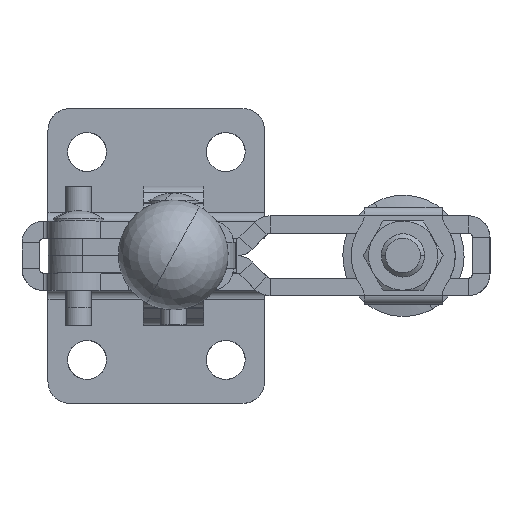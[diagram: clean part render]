
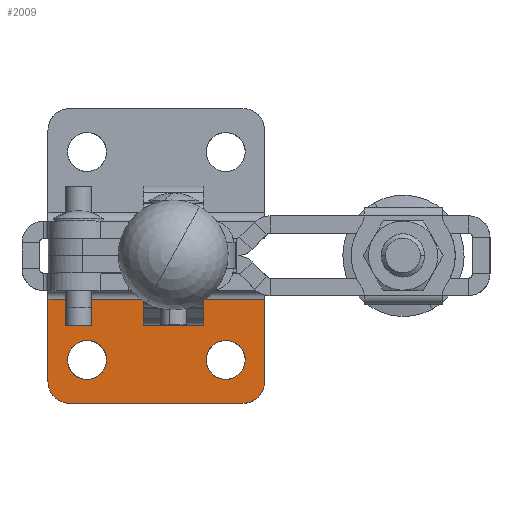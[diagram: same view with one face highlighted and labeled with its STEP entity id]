
A CAD part, top view. The second image highlights one B-rep face of the part: STEP entity #2009.
In plain terms, the highlighted planar face has unit normal (0, 0, 1).
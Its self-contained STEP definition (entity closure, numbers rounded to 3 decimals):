
#869=CARTESIAN_POINT('Axis2P3D Location',(0.,0.,-6.)) ;
#1683=CARTESIAN_POINT('Vertex',(3.75,-12.,-6.)) ;
#1689=CARTESIAN_POINT('Control Point',(8.25,-12.,-6.)) ;
#1690=CARTESIAN_POINT('Control Point',(8.25,-12.522,-6.)) ;
#1691=CARTESIAN_POINT('Control Point',(8.099,-13.044,-6.)) ;
#1692=CARTESIAN_POINT('Control Point',(7.796,-13.507,-6.)) ;
#1693=CARTESIAN_POINT('Control Point',(7.14,-14.052,-6.)) ;
#1694=CARTESIAN_POINT('Control Point',(6.334,-14.255,-6.)) ;
#1695=CARTESIAN_POINT('Control Point',(6.032,-14.28,-6.)) ;
#1696=CARTESIAN_POINT('Control Point',(5.132,-14.202,-6.)) ;
#1697=CARTESIAN_POINT('Control Point',(4.34,-13.696,-6.)) ;
#1698=CARTESIAN_POINT('Control Point',(3.946,-13.189,-6.)) ;
#1699=CARTESIAN_POINT('Control Point',(3.75,-12.594,-6.)) ;
#1700=CARTESIAN_POINT('Control Point',(3.75,-12.,-6.)) ;
#1701=CARTESIAN_POINT('Vertex',(8.25,-12.,-6.)) ;
#1747=CARTESIAN_POINT('Control Point',(3.75,-12.,-6.)) ;
#1748=CARTESIAN_POINT('Control Point',(3.75,-11.406,-6.)) ;
#1749=CARTESIAN_POINT('Control Point',(3.946,-10.811,-6.)) ;
#1750=CARTESIAN_POINT('Control Point',(4.34,-10.304,-6.)) ;
#1751=CARTESIAN_POINT('Control Point',(5.132,-9.798,-6.)) ;
#1752=CARTESIAN_POINT('Control Point',(6.032,-9.72,-6.)) ;
#1753=CARTESIAN_POINT('Control Point',(6.334,-9.745,-6.)) ;
#1754=CARTESIAN_POINT('Control Point',(7.14,-9.948,-6.)) ;
#1755=CARTESIAN_POINT('Control Point',(7.796,-10.493,-6.)) ;
#1756=CARTESIAN_POINT('Control Point',(8.099,-10.956,-6.)) ;
#1757=CARTESIAN_POINT('Control Point',(8.25,-11.478,-6.)) ;
#1758=CARTESIAN_POINT('Control Point',(8.25,-12.,-6.)) ;
#1794=CARTESIAN_POINT('Vertex',(-7.75,-12.,-6.)) ;
#1798=CARTESIAN_POINT('Control Point',(-12.25,-12.,-6.)) ;
#1799=CARTESIAN_POINT('Control Point',(-12.25,-11.406,-6.)) ;
#1800=CARTESIAN_POINT('Control Point',(-12.054,-10.811,-6.)) ;
#1801=CARTESIAN_POINT('Control Point',(-11.66,-10.304,-6.)) ;
#1802=CARTESIAN_POINT('Control Point',(-10.868,-9.798,-6.)) ;
#1803=CARTESIAN_POINT('Control Point',(-9.968,-9.72,-6.)) ;
#1804=CARTESIAN_POINT('Control Point',(-9.666,-9.745,-6.)) ;
#1805=CARTESIAN_POINT('Control Point',(-8.86,-9.948,-6.)) ;
#1806=CARTESIAN_POINT('Control Point',(-8.204,-10.493,-6.)) ;
#1807=CARTESIAN_POINT('Control Point',(-7.901,-10.956,-6.)) ;
#1808=CARTESIAN_POINT('Control Point',(-7.75,-11.478,-6.)) ;
#1809=CARTESIAN_POINT('Control Point',(-7.75,-12.,-6.)) ;
#1810=CARTESIAN_POINT('Vertex',(-12.25,-12.,-6.)) ;
#1826=CARTESIAN_POINT('Control Point',(-7.75,-12.,-6.)) ;
#1827=CARTESIAN_POINT('Control Point',(-7.75,-12.522,-6.)) ;
#1828=CARTESIAN_POINT('Control Point',(-7.901,-13.044,-6.)) ;
#1829=CARTESIAN_POINT('Control Point',(-8.204,-13.507,-6.)) ;
#1830=CARTESIAN_POINT('Control Point',(-8.86,-14.052,-6.)) ;
#1831=CARTESIAN_POINT('Control Point',(-9.666,-14.255,-6.)) ;
#1832=CARTESIAN_POINT('Control Point',(-9.968,-14.28,-6.)) ;
#1833=CARTESIAN_POINT('Control Point',(-10.868,-14.202,-6.)) ;
#1834=CARTESIAN_POINT('Control Point',(-11.66,-13.696,-6.)) ;
#1835=CARTESIAN_POINT('Control Point',(-12.054,-13.189,-6.)) ;
#1836=CARTESIAN_POINT('Control Point',(-12.25,-12.594,-6.)) ;
#1837=CARTESIAN_POINT('Control Point',(-12.25,-12.,-6.)) ;
#1881=CARTESIAN_POINT('Vertex',(-12.,-17.,-6.)) ;
#1885=CARTESIAN_POINT('Control Point',(-14.5,-14.5,-6.)) ;
#1886=CARTESIAN_POINT('Control Point',(-14.5,-15.285,-6.)) ;
#1887=CARTESIAN_POINT('Control Point',(-14.192,-16.072,-6.)) ;
#1888=CARTESIAN_POINT('Control Point',(-13.572,-16.692,-6.)) ;
#1889=CARTESIAN_POINT('Control Point',(-12.785,-17.,-6.)) ;
#1890=CARTESIAN_POINT('Control Point',(-12.,-17.,-6.)) ;
#1891=CARTESIAN_POINT('Vertex',(-14.5,-14.5,-6.)) ;
#1922=CARTESIAN_POINT('Vertex',(8.,-17.,-6.)) ;
#1925=CARTESIAN_POINT('Line Origine',(-2.,-17.,-6.)) ;
#1956=CARTESIAN_POINT('Vertex',(10.5,-14.5,-6.)) ;
#1960=CARTESIAN_POINT('Control Point',(8.,-17.,-6.)) ;
#1961=CARTESIAN_POINT('Control Point',(8.785,-17.,-6.)) ;
#1962=CARTESIAN_POINT('Control Point',(9.572,-16.692,-6.)) ;
#1963=CARTESIAN_POINT('Control Point',(10.192,-16.072,-6.)) ;
#1964=CARTESIAN_POINT('Control Point',(10.5,-15.285,-6.)) ;
#1965=CARTESIAN_POINT('Control Point',(10.5,-14.5,-6.)) ;
#1974=CARTESIAN_POINT('Line Origine',(-14.5,-9.75,-6.)) ;
#1978=CARTESIAN_POINT('Vertex',(-14.5,-5.,-6.)) ;
#1981=CARTESIAN_POINT('Line Origine',(10.5,-9.75,-6.)) ;
#1985=CARTESIAN_POINT('Vertex',(10.5,-5.,-6.)) ;
#1988=CARTESIAN_POINT('Line Origine',(-2.,-5.,-6.)) ;
#870=DIRECTION('Axis2P3D Direction',(0.,0.,-1.)) ;
#871=DIRECTION('Axis2P3D XDirection',(1.,0.,0.)) ;
#1926=DIRECTION('Vector Direction',(1.,0.,0.)) ;
#1975=DIRECTION('Vector Direction',(0.,1.,0.)) ;
#1982=DIRECTION('Vector Direction',(0.,-1.,0.)) ;
#1989=DIRECTION('Vector Direction',(1.,0.,0.)) ;
#872=AXIS2_PLACEMENT_3D('Plane Axis2P3D',#869,#870,#871) ;
#1994=ORIENTED_EDGE('',*,*,#1980,.F.) ;
#1995=ORIENTED_EDGE('',*,*,#1893,.T.) ;
#1996=ORIENTED_EDGE('',*,*,#1929,.T.) ;
#1997=ORIENTED_EDGE('',*,*,#1966,.T.) ;
#1998=ORIENTED_EDGE('',*,*,#1987,.F.) ;
#1999=ORIENTED_EDGE('',*,*,#1992,.F.) ;
#2002=ORIENTED_EDGE('',*,*,#1759,.T.) ;
#2003=ORIENTED_EDGE('',*,*,#1703,.T.) ;
#2006=ORIENTED_EDGE('',*,*,#1838,.T.) ;
#2007=ORIENTED_EDGE('',*,*,#1812,.T.) ;
#2004=FACE_BOUND('',#2001,.T.) ;
#2008=FACE_BOUND('',#2005,.T.) ;
#1927=VECTOR('Line Direction',#1926,1.) ;
#1976=VECTOR('Line Direction',#1975,1.) ;
#1983=VECTOR('Line Direction',#1982,1.) ;
#1990=VECTOR('Line Direction',#1989,1.) ;
#2009=ADVANCED_FACE('PartBody',(#2000,#2004,#2008),#873,.F.) ;
#1688=B_SPLINE_CURVE_WITH_KNOTS('',5,(#1689,#1690,#1691,#1692,#1693,#1694,#1695,#1696,#1697,#1698,#1699,#1700),.UNSPECIFIED.,.F.,.U.,(6,3,3,6),(0.,3.69,5.793,9.996),.UNSPECIFIED.) ;
#1746=B_SPLINE_CURVE_WITH_KNOTS('',5,(#1747,#1748,#1749,#1750,#1751,#1752,#1753,#1754,#1755,#1756,#1757,#1758),.UNSPECIFIED.,.F.,.U.,(6,3,3,6),(9.996,14.2,16.303,19.992),.UNSPECIFIED.) ;
#1797=B_SPLINE_CURVE_WITH_KNOTS('',5,(#1798,#1799,#1800,#1801,#1802,#1803,#1804,#1805,#1806,#1807,#1808,#1809),.UNSPECIFIED.,.F.,.U.,(6,3,3,6),(9.996,14.2,16.303,19.992),.UNSPECIFIED.) ;
#1825=B_SPLINE_CURVE_WITH_KNOTS('',5,(#1826,#1827,#1828,#1829,#1830,#1831,#1832,#1833,#1834,#1835,#1836,#1837),.UNSPECIFIED.,.F.,.U.,(6,3,3,6),(0.,3.69,5.793,9.996),.UNSPECIFIED.) ;
#1884=B_SPLINE_CURVE_WITH_KNOTS('',5,(#1885,#1886,#1887,#1888,#1889,#1890),.UNSPECIFIED.,.F.,.U.,(6,6),(0.,5.553),.UNSPECIFIED.) ;
#1959=B_SPLINE_CURVE_WITH_KNOTS('',5,(#1960,#1961,#1962,#1963,#1964,#1965),.UNSPECIFIED.,.F.,.U.,(6,6),(0.,5.553),.UNSPECIFIED.) ;
#1703=EDGE_CURVE('',#1702,#1684,#1688,.T.) ;
#1759=EDGE_CURVE('',#1684,#1702,#1746,.T.) ;
#1812=EDGE_CURVE('',#1811,#1795,#1797,.T.) ;
#1838=EDGE_CURVE('',#1795,#1811,#1825,.T.) ;
#1893=EDGE_CURVE('',#1892,#1882,#1884,.T.) ;
#1929=EDGE_CURVE('',#1882,#1923,#1928,.T.) ;
#1966=EDGE_CURVE('',#1923,#1957,#1959,.T.) ;
#1980=EDGE_CURVE('',#1892,#1979,#1977,.T.) ;
#1987=EDGE_CURVE('',#1986,#1957,#1984,.T.) ;
#1992=EDGE_CURVE('',#1979,#1986,#1991,.T.) ;
#1993=EDGE_LOOP('',(#1994,#1995,#1996,#1997,#1998,#1999)) ;
#2001=EDGE_LOOP('',(#2002,#2003)) ;
#2005=EDGE_LOOP('',(#2006,#2007)) ;
#2000=FACE_OUTER_BOUND('',#1993,.T.) ;
#1928=LINE('Line',#1925,#1927) ;
#1977=LINE('Line',#1974,#1976) ;
#1984=LINE('Line',#1981,#1983) ;
#1991=LINE('Line',#1988,#1990) ;
#873=PLANE('Plane',#872) ;
#1684=VERTEX_POINT('',#1683) ;
#1702=VERTEX_POINT('',#1701) ;
#1795=VERTEX_POINT('',#1794) ;
#1811=VERTEX_POINT('',#1810) ;
#1882=VERTEX_POINT('',#1881) ;
#1892=VERTEX_POINT('',#1891) ;
#1923=VERTEX_POINT('',#1922) ;
#1957=VERTEX_POINT('',#1956) ;
#1979=VERTEX_POINT('',#1978) ;
#1986=VERTEX_POINT('',#1985) ;
